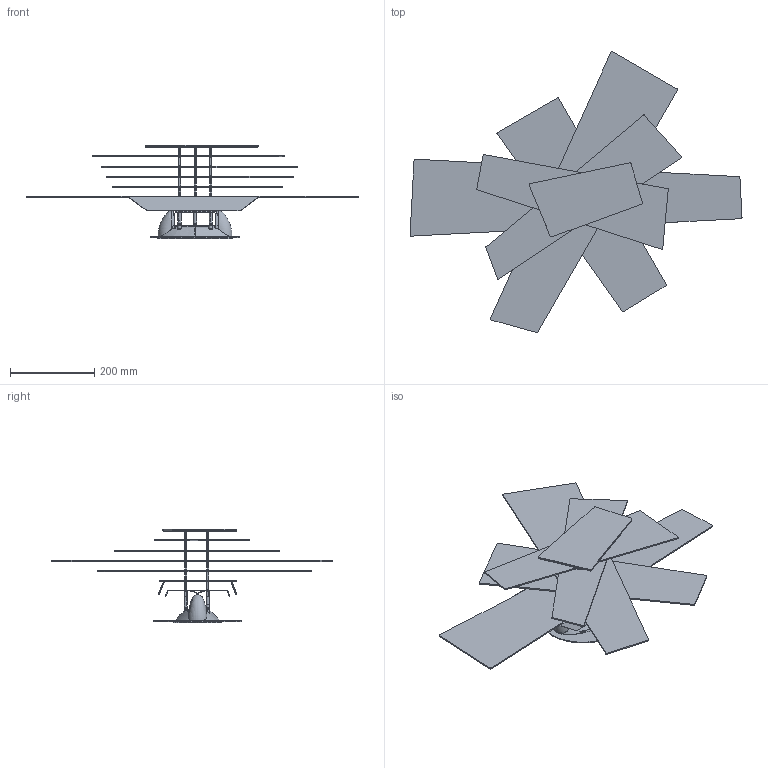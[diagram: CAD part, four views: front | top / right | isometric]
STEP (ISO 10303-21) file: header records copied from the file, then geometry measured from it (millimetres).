
FILE_DESCRIPTION (( 'STEP AP214' ), '1' );
FILE_NAME ('151_STD_W_C_PL_3D.STEP', '2021-05-20T10:49:05', ( '' ), ( '' ), 'SwSTEP 2.0', 'SolidWorks 2021', '' );
FILE_SCHEMA (( 'AUTOMOTIVE_DESIGN' ));
Length unit declared in the file: millimetre
Products named in the file (1): 151_STD_W_C_PL_3D
Bounding box: 786.67 x 666.09 x 221 mm (x, y, z)
Volume: 1471521.3 mm3; surface area: 1147274.4 mm2
Topology: 30 solids, 31 shells, 1368 faces, 3758 edges, 2428 vertices
Faces by surface type: cylinder 629, plane 517, bspline 117, torus 53, cone 52
Entity records: 114193 total; most frequent: CARTESIAN_POINT 63581, ORIENTED_EDGE 7488, DIRECTION 7058, EDGE_CURVE 3744, AXIS2_PLACEMENT_3D 2567, VERTEX_POINT 2428, LINE 1924, VECTOR 1924
